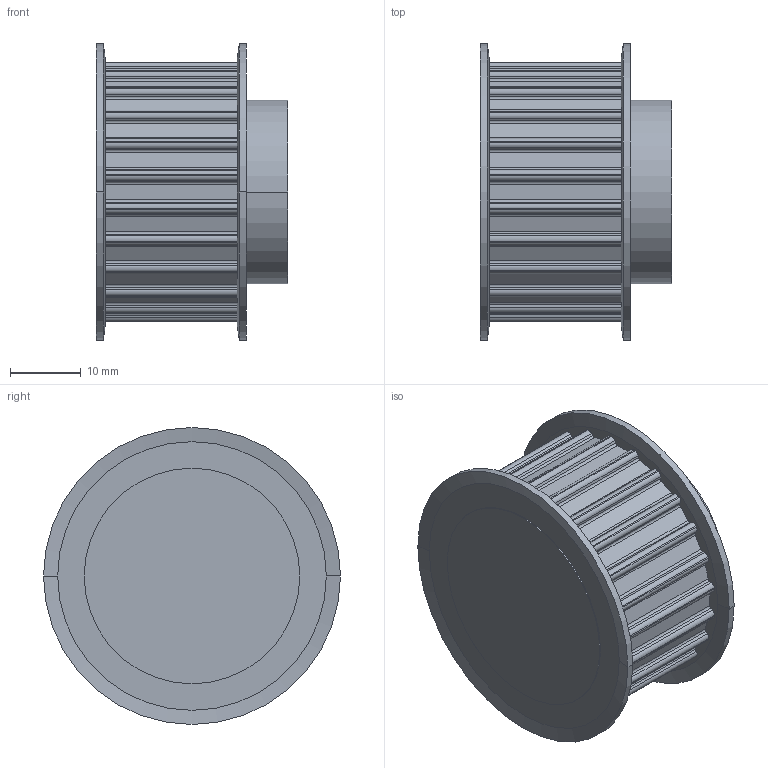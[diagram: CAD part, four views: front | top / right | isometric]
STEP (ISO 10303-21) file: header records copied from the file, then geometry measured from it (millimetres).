
FILE_DESCRIPTION( ( '' ), '1' );
FILE_NAME( 'C:/Users/Stangenbergd/Documents/CAD_Step/1/16632400.stp', '2021-10-19T09:36:20', ( '' ), ( '' ), ' ', ' ', ' ' );
FILE_SCHEMA( ( 'CONFIG_CONTROL_DESIGN' ) );
Length unit declared in the file: millimetre
Products named in the file (1): 1
Bounding box: 27.13 x 42 x 42 mm (x, y, z)
Volume: 24692.2 mm3; surface area: 6931.1 mm2
Topology: 1 solids, 1 shells, 217 faces, 622 edges, 412 vertices
Faces by surface type: cylinder 130, plane 79, cone 8
Entity records: 7244 total; most frequent: DIRECTION 1326, CARTESIAN_POINT 1252, ORIENTED_EDGE 1244, EDGE_CURVE 622, AXIS2_PLACEMENT_3D 486, VERTEX_POINT 412, LINE 354, VECTOR 354
